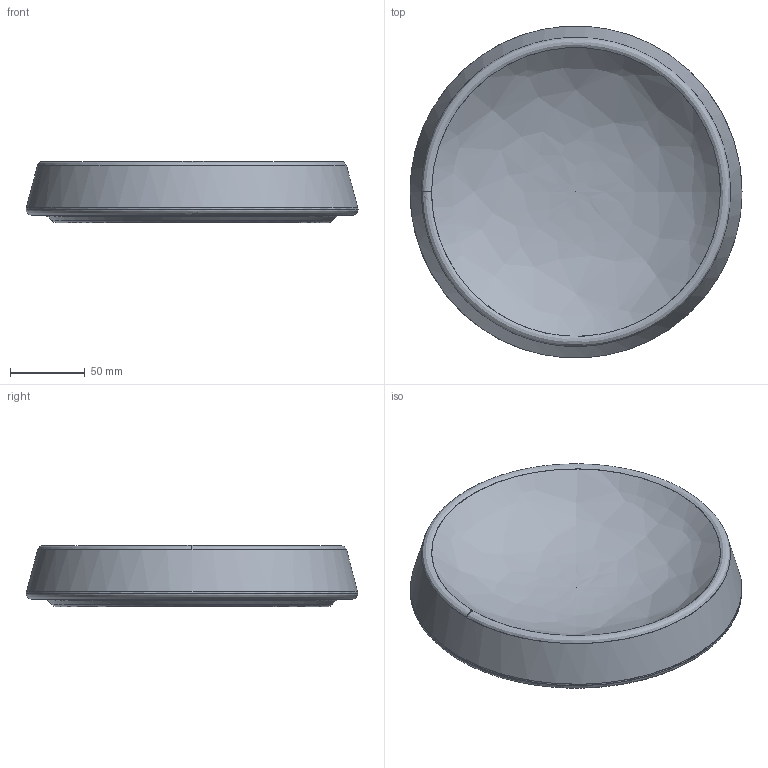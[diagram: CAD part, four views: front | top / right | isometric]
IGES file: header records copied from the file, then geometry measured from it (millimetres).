
Global section: file name: C:\Users\colombo_c\Desktop\Danese\Sito\3D mancanti\Pebosto bowl\Pebosto bowl 22.igs; native system: Rhinoceros ( Apr 16 2024 ); preprocessor: Trout Lake IGES 012 Apr 16 2024; date: 250718.085034; units: millimetre
Bounding box: 221.97 x 221.77 x 40.99 mm (x, y, z)
Surface area: 100010.1 mm2 (no closed solid volume)
Topology: 0 solids, 0 shells, 10 faces, 46 edges, 34 vertices
Faces by surface type: bspline 10
